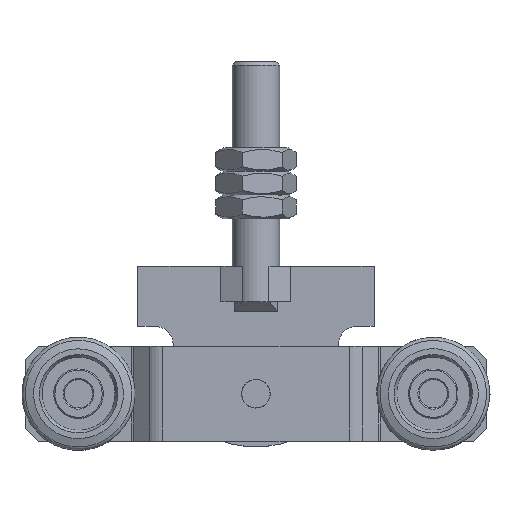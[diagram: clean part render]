
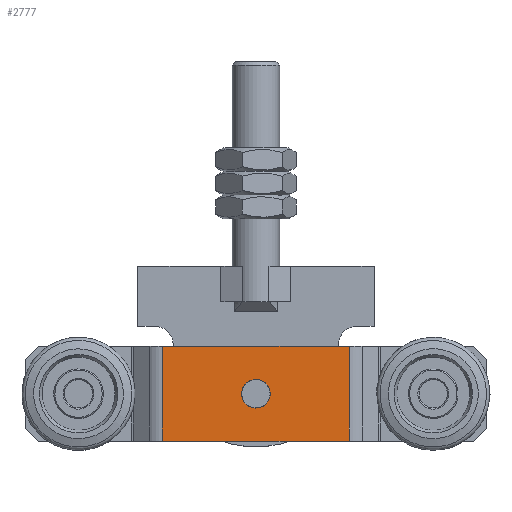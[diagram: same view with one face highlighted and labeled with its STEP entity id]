
A CAD part, top view. The second image highlights one B-rep face of the part: STEP entity #2777.
In plain terms, the highlighted planar face has unit normal (0, 0, 1).
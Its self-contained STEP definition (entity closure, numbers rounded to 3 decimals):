
#119=FACE_BOUND('',#507,.T.);
#319=FACE_OUTER_BOUND('',#506,.T.);
#506=EDGE_LOOP('',(#2078,#2079,#2080,#2081));
#507=EDGE_LOOP('',(#2082));
#752=LINE('',#15342,#978);
#758=LINE('',#15356,#984);
#759=LINE('',#15358,#985);
#760=LINE('',#15359,#986);
#978=VECTOR('',#3440,40.);
#984=VECTOR('',#3454,79.);
#985=VECTOR('',#3455,40.);
#986=VECTOR('',#3456,79.);
#1152=CIRCLE('',#2993,6.05);
#1299=VERTEX_POINT('',#15324);
#1302=VERTEX_POINT('',#15332);
#1309=VERTEX_POINT('',#15355);
#1310=VERTEX_POINT('',#15357);
#1311=VERTEX_POINT('',#15360);
#1588=EDGE_CURVE('',#1302,#1299,#752,.T.);
#1595=EDGE_CURVE('',#1309,#1299,#758,.T.);
#1596=EDGE_CURVE('',#1309,#1310,#759,.T.);
#1597=EDGE_CURVE('',#1302,#1310,#760,.T.);
#1598=EDGE_CURVE('',#1311,#1311,#1152,.T.);
#2078=ORIENTED_EDGE('',*,*,#1588,.T.);
#2079=ORIENTED_EDGE('',*,*,#1595,.F.);
#2080=ORIENTED_EDGE('',*,*,#1596,.T.);
#2081=ORIENTED_EDGE('',*,*,#1597,.F.);
#2082=ORIENTED_EDGE('',*,*,#1598,.T.);
#2643=PLANE('',#2992);
#2777=ADVANCED_FACE('',(#319,#119),#2643,.T.);
#2992=AXIS2_PLACEMENT_3D('',#15354,#3452,#3453);
#2993=AXIS2_PLACEMENT_3D('',#15361,#3457,#3458);
#3440=DIRECTION('',(0.,1.,0.));
#3452=DIRECTION('center_axis',(0.,0.,1.));
#3453=DIRECTION('ref_axis',(1.,0.,0.));
#3454=DIRECTION('',(1.,0.,0.));
#3455=DIRECTION('',(0.,-1.,0.));
#3456=DIRECTION('',(-1.,0.,0.));
#3457=DIRECTION('center_axis',(0.,0.,-1.));
#3458=DIRECTION('ref_axis',(-1.,0.,0.));
#15324=CARTESIAN_POINT('',(39.5,20.,8.));
#15332=CARTESIAN_POINT('',(39.5,-20.,8.));
#15342=CARTESIAN_POINT('',(39.5,-10.,8.));
#15354=CARTESIAN_POINT('Origin',(0.,0.,
8.));
#15355=CARTESIAN_POINT('',(-39.5,20.,8.));
#15356=CARTESIAN_POINT('',(93.3,20.,8.));
#15357=CARTESIAN_POINT('',(-39.5,-20.,8.));
#15358=CARTESIAN_POINT('',(-39.5,10.,8.));
#15359=CARTESIAN_POINT('',(-93.3,-20.,8.));
#15360=CARTESIAN_POINT('',(6.05,0.,8.));
#15361=CARTESIAN_POINT('Origin',(0.,0.,8.));
